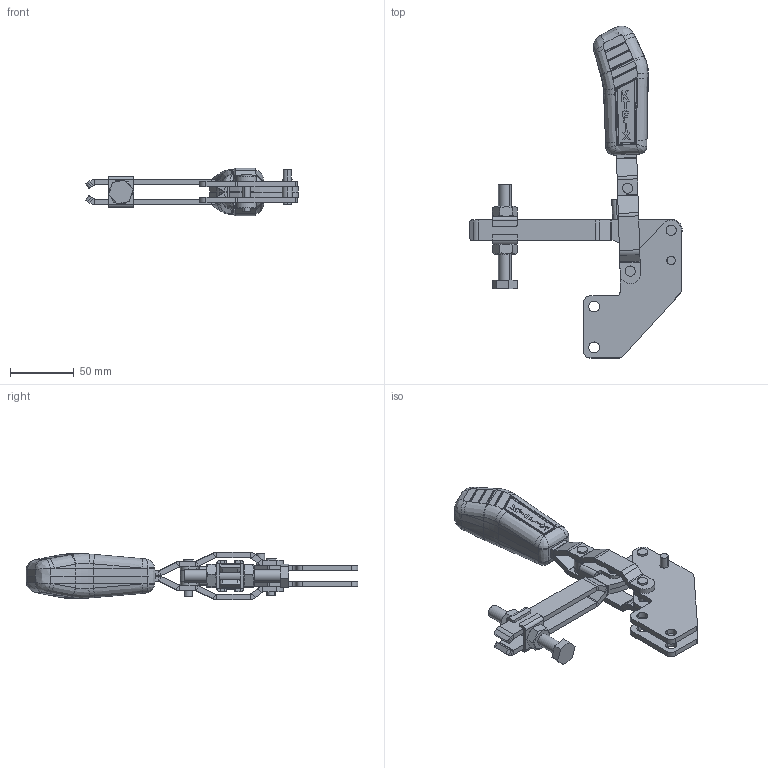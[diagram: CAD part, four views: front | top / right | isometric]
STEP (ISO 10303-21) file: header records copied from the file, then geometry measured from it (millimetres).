
FILE_DESCRIPTION (( 'STEP AP203' ), '1' );
FILE_NAME ('KF-311 RB.STEP', '2014-07-31T17:23:36', ( 'Ricardo' ), ( '' ), 'SwSTEP 2.0', 'SolidWorks 2013', '' );
FILE_SCHEMA (( 'CONFIG_CONTROL_DESIGN' ));
Length unit declared in the file: millimetre
Products named in the file (14): 05.20005; 03.14004_Direita; 12.50004; 03.14004_Esquerda; 11.50003; 01.10013; 14.10003; 04.10002; 02.11020; 07.60002; KF-311 RB; 04.20002; 06.50007; 06.50008
Assembly tree (19 placements, depth 2):
  KF-311 RB
    03.14004_Direita
    03.14004_Esquerda
    01.10013  x2
    04.10002
    07.60002
    04.20002
    06.50007  x2
    06.50008  x2
    05.20005
    12.50004
    11.50003  x2
    14.10003  x2
    02.11020  x2
Bounding box: 166.22 x 259.79 x 37 mm (x, y, z)
Volume: 189113.5 mm3; surface area: 82337.6 mm2
Topology: 19 solids, 19 shells, 846 faces, 2042 edges, 1245 vertices
Faces by surface type: plane 366, cylinder 236, bspline 157, sphere 52, cone 32, torus 3
Entity records: 25795 total; most frequent: CARTESIAN_POINT 9242, ORIENTED_EDGE 3334, DIRECTION 2744, EDGE_CURVE 1667, VERTEX_POINT 1029, AXIS2_PLACEMENT_3D 1024, EDGE_LOOP 756, VECTOR 696
